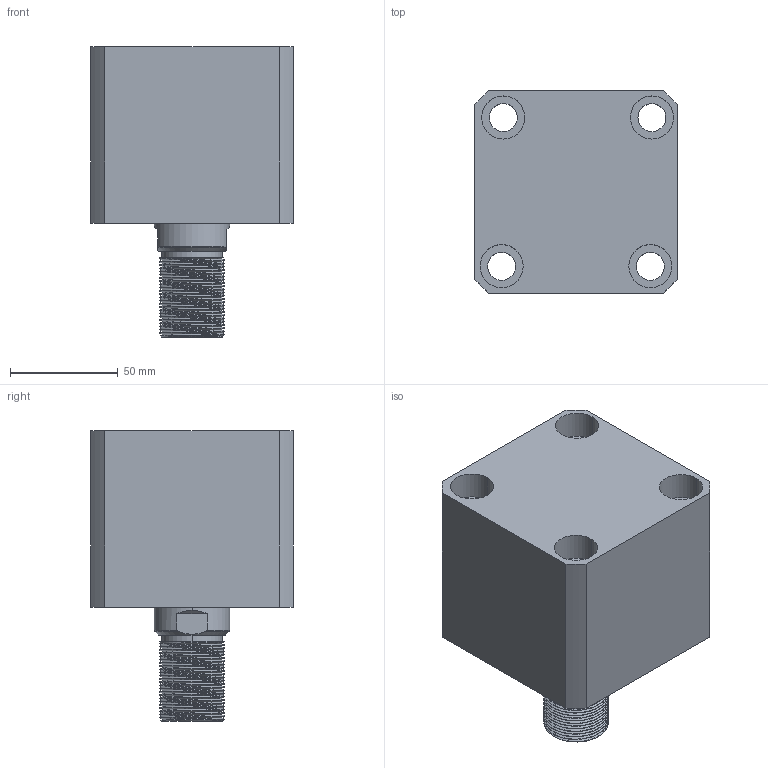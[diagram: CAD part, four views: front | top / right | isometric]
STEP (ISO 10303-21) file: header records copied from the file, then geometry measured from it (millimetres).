
FILE_DESCRIPTION (( 'STEP AP214' ), '1' );
FILE_NAME ('chtb-sdma63x15w_asm.STEP', '2018-05-18T09:02:42', ( 'Windows' ), ( 'Microsoft' ), 'SwSTEP 2.0', 'SolidWorks 2015', '' );
FILE_SCHEMA (( 'AUTOMOTIVE_DESIGN' ));
Length unit declared in the file: millimetre
Products named in the file (4): CHTB-SDMA63X15NBT; CHTB63X15WHSG; CHTB-63QG; chtb-sdma63x15w_asm
Assembly tree (3 placements, depth 2):
  chtb-sdma63x15w_asm
    CHTB-63QG
    CHTB63X15WHSG
    CHTB-SDMA63X15NBT
Bounding box: 94 x 94 x 135 mm (x, y, z)
Volume: 660290.6 mm3; surface area: 120918.9 mm2
Topology: 3 solids, 3 shells, 219 faces, 632 edges, 430 vertices
Faces by surface type: cylinder 156, plane 34, bspline 14, cone 9, torus 6
Entity records: 22297 total; most frequent: CARTESIAN_POINT 17024, ORIENTED_EDGE 1256, DIRECTION 878, EDGE_CURVE 628, VERTEX_POINT 430, AXIS2_PLACEMENT_3D 343, EDGE_LOOP 252, ADVANCED_FACE 219
